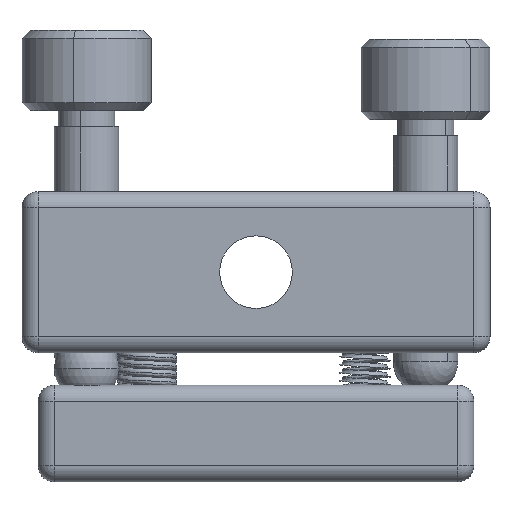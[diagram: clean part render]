
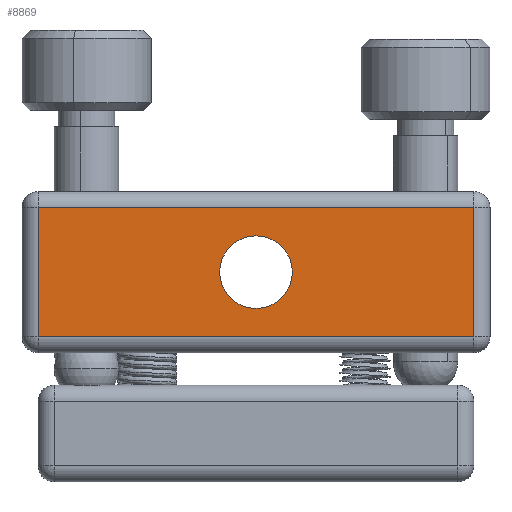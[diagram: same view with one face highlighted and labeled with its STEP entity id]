
A CAD part, left-side view. The second image highlights one B-rep face of the part: STEP entity #8869.
In plain terms, the highlighted planar face has unit normal (-1, 0, 0).
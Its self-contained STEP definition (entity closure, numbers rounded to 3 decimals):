
#237 = DIRECTION ( 'NONE',  ( 0., -1., 0. ) ) ;
#738 = CARTESIAN_POINT ( 'NONE',  ( -14.5, -13.5, 4. ) ) ;
#1032 = CARTESIAN_POINT ( 'NONE',  ( -14.5, -13.5, -4. ) ) ;
#1072 = CARTESIAN_POINT ( 'NONE',  ( -14.5, -13.5, -4. ) ) ;
#1172 = VERTEX_POINT ( 'NONE', #1876 ) ;
#1439 = DIRECTION ( 'NONE',  ( 0., 0., 1. ) ) ;
#1448 = CARTESIAN_POINT ( 'NONE',  ( -14.5, -13.5, 5. ) ) ;
#1823 = CARTESIAN_POINT ( 'NONE',  ( -14.5, 0., 2.25 ) ) ;
#1840 = DIRECTION ( 'NONE',  ( 0., 0., -1. ) ) ;
#1845 = DIRECTION ( 'NONE',  ( 1., 0., 0. ) ) ;
#1851 = AXIS2_PLACEMENT_3D ( 'NONE', #8075, #7738, #7688 ) ;
#1852 = CARTESIAN_POINT ( 'NONE',  ( -14.5, 0., 0. ) ) ;
#1876 = CARTESIAN_POINT ( 'NONE',  ( -14.5, 13.5, -4. ) ) ;
#2145 = VERTEX_POINT ( 'NONE', #8578 ) ;
#2198 = CARTESIAN_POINT ( 'NONE',  ( -14.5, 13.5, 5. ) ) ;
#2319 = DIRECTION ( 'NONE',  ( 0., 0., -1. ) ) ;
#2397 = EDGE_LOOP ( 'NONE', ( #6070, #6509, #6406, #6679 ) ) ;
#3982 = DIRECTION ( 'NONE',  ( 0., 1., 0. ) ) ;
#4045 = CARTESIAN_POINT ( 'NONE',  ( -14.5, 0., -2.25 ) ) ;
#5980 = AXIS2_PLACEMENT_3D ( 'NONE', #1852, #1845, #1840 ) ;
#6070 = ORIENTED_EDGE ( 'NONE', *, *, #7138, .T. ) ;
#6238 = ORIENTED_EDGE ( 'NONE', *, *, #8631, .T. ) ;
#6406 = ORIENTED_EDGE ( 'NONE', *, *, #7025, .T. ) ;
#6427 = ORIENTED_EDGE ( 'NONE', *, *, #7049, .T. ) ;
#6509 = ORIENTED_EDGE ( 'NONE', *, *, #7612, .T. ) ;
#6679 = ORIENTED_EDGE ( 'NONE', *, *, #8478, .T. ) ;
#7025 = EDGE_CURVE ( 'NONE', #2145, #1172, #12278, .T. ) ;
#7049 = EDGE_CURVE ( 'NONE', #7984, #7056, #12268, .T. ) ;
#7056 = VERTEX_POINT ( 'NONE', #1823 ) ;
#7138 = EDGE_CURVE ( 'NONE', #10854, #10972, #12066, .T. ) ;
#7612 = EDGE_CURVE ( 'NONE', #10972, #2145, #10363, .T. ) ;
#7618 = FACE_BOUND ( 'NONE', #7679, .T. ) ;
#7679 = EDGE_LOOP ( 'NONE', ( #6427, #6238 ) ) ;
#7688 = DIRECTION ( 'NONE',  ( 0., 0., -1. ) ) ;
#7738 = DIRECTION ( 'NONE',  ( 1., 0., 0. ) ) ;
#7802 = FACE_OUTER_BOUND ( 'NONE', #2397, .T. ) ;
#7984 = VERTEX_POINT ( 'NONE', #4045 ) ;
#8071 = CARTESIAN_POINT ( 'NONE',  ( -14.5, -14.5, 4. ) ) ;
#8075 = CARTESIAN_POINT ( 'NONE',  ( -14.5, -14.5, 5. ) ) ;
#8119 = CIRCLE ( 'NONE', #8553, 2.25 ) ;
#8278 = VECTOR ( 'NONE', #237, 1000. ) ;
#8374 = LINE ( 'NONE', #1032, #8278 ) ;
#8478 = EDGE_CURVE ( 'NONE', #1172, #10854, #8374, .T. ) ;
#8553 = AXIS2_PLACEMENT_3D ( 'NONE', #12137, #12092, #12045 ) ;
#8578 = CARTESIAN_POINT ( 'NONE',  ( -14.5, 13.5, 4. ) ) ;
#8611 = PLANE ( 'NONE',  #1851 ) ;
#8631 = EDGE_CURVE ( 'NONE', #7056, #7984, #8119, .T. ) ;
#8869 = ADVANCED_FACE ( 'NONE', ( #7618, #7802 ), #8611, .F. ) ;
#10363 = LINE ( 'NONE', #8071, #10526 ) ;
#10526 = VECTOR ( 'NONE', #3982, 1000. ) ;
#10854 = VERTEX_POINT ( 'NONE', #1072 ) ;
#10972 = VERTEX_POINT ( 'NONE', #738 ) ;
#11936 = VECTOR ( 'NONE', #1439, 1000. ) ;
#12045 = DIRECTION ( 'NONE',  ( 0., 0., -1. ) ) ;
#12066 = LINE ( 'NONE', #1448, #11936 ) ;
#12092 = DIRECTION ( 'NONE',  ( 1., 0., 0. ) ) ;
#12137 = CARTESIAN_POINT ( 'NONE',  ( -14.5, 0., 0. ) ) ;
#12268 = CIRCLE ( 'NONE', #5980, 2.25 ) ;
#12278 = LINE ( 'NONE', #2198, #12407 ) ;
#12407 = VECTOR ( 'NONE', #2319, 1000. ) ;
